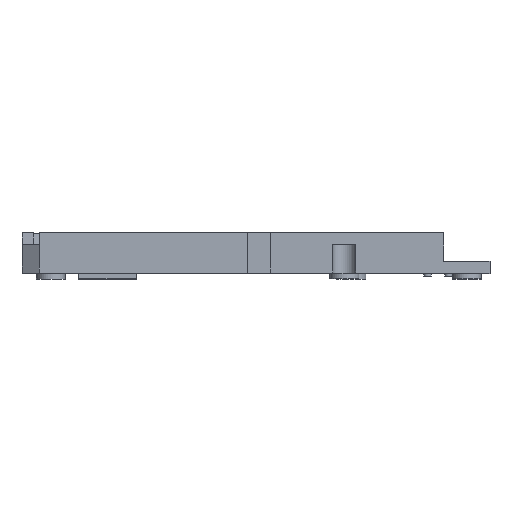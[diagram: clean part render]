
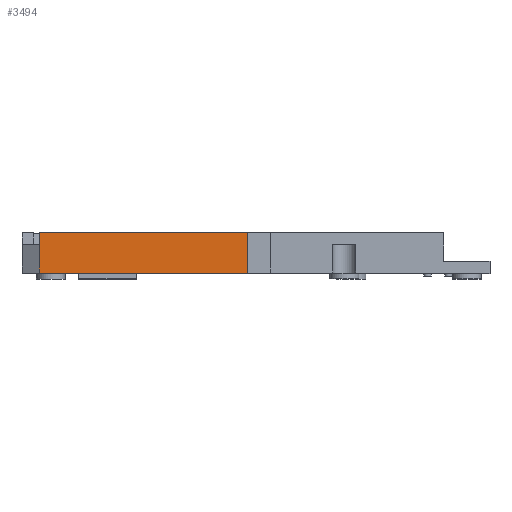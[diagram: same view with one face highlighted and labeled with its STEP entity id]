
A CAD part, top view. The second image highlights one B-rep face of the part: STEP entity #3494.
In plain terms, the highlighted planar face has unit normal (0, 0, 1).
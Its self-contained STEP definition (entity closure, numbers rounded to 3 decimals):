
#291=DIRECTION('',(1.,0.,0.));
#292=VECTOR('',#291,36.);
#293=CARTESIAN_POINT('',(-78.,0.,57.5));
#294=LINE('',#293,#292);
#1123=DIRECTION('',(0.,1.,0.));
#1124=VECTOR('',#1123,7.);
#1125=CARTESIAN_POINT('',(-42.,0.,57.5));
#1126=LINE('',#1125,#1124);
#1127=DIRECTION('',(0.,1.,0.));
#1128=VECTOR('',#1127,7.);
#1129=CARTESIAN_POINT('',(-78.,0.,57.5));
#1130=LINE('',#1129,#1128);
#1187=DIRECTION('',(1.,0.,0.));
#1188=VECTOR('',#1187,36.);
#1189=CARTESIAN_POINT('',(-78.,7.,57.5));
#1190=LINE('',#1189,#1188);
#1769=CARTESIAN_POINT('',(-78.,0.,57.5));
#1770=CARTESIAN_POINT('',(-78.,7.,57.5));
#1771=VERTEX_POINT('',#1769);
#1772=VERTEX_POINT('',#1770);
#2099=CARTESIAN_POINT('',(-42.,0.,57.5));
#2100=VERTEX_POINT('',#2099);
#2107=CARTESIAN_POINT('',(-42.,7.,57.5));
#2108=VERTEX_POINT('',#2107);
#3480=CARTESIAN_POINT('',(-78.,0.,57.5));
#3481=DIRECTION('',(0.,0.,1.));
#3482=DIRECTION('',(1.,0.,0.));
#3483=AXIS2_PLACEMENT_3D('',#3480,#3481,#3482);
#3484=PLANE('',#3483);
#3486=ORIENTED_EDGE('',*,*,#3485,.F.);
#3487=ORIENTED_EDGE('',*,*,#2352,.F.);
#3489=ORIENTED_EDGE('',*,*,#3488,.T.);
#3491=ORIENTED_EDGE('',*,*,#3490,.T.);
#3492=EDGE_LOOP('',(#3486,#3487,#3489,#3491));
#3493=FACE_OUTER_BOUND('',#3492,.F.);
#3494=ADVANCED_FACE('',(#3493),#3484,.T.);
#2352=EDGE_CURVE('',#1771,#2100,#294,.T.);
#3485=EDGE_CURVE('',#2100,#2108,#1126,.T.);
#3488=EDGE_CURVE('',#1771,#1772,#1130,.T.);
#3490=EDGE_CURVE('',#1772,#2108,#1190,.T.);
